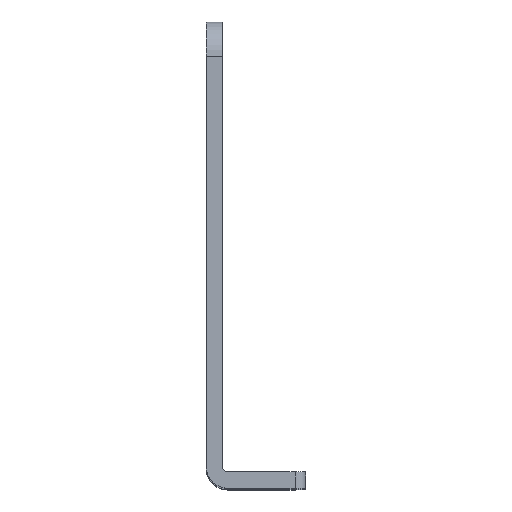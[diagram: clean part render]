
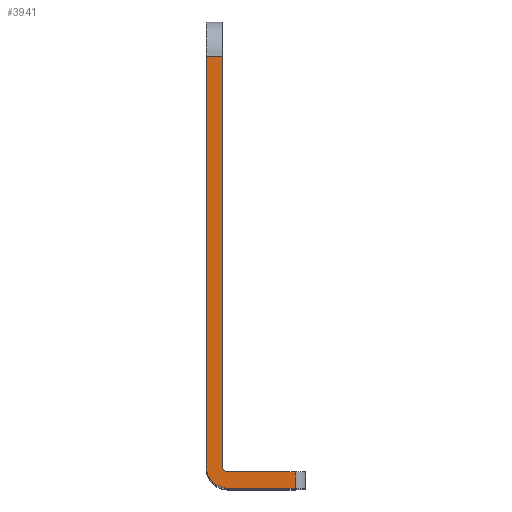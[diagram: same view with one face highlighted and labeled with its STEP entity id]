
A CAD part, top view. The second image highlights one B-rep face of the part: STEP entity #3941.
In plain terms, the highlighted planar face has unit normal (0, 0, 1).
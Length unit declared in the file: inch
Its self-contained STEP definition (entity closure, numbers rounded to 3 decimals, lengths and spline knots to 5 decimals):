
#769 = VERTEX_POINT ( 'NONE', #8805 ) ;
#1228 = ORIENTED_EDGE ( 'NONE', *, *, #3482, .T. ) ;
#1363 = ORIENTED_EDGE ( 'NONE', *, *, #3379, .T. ) ;
#1463 = VERTEX_POINT ( 'NONE', #10074 ) ;
#1464 = VERTEX_POINT ( 'NONE', #9251 ) ;
#1465 = VERTEX_POINT ( 'NONE', #9946 ) ;
#1617 = VERTEX_POINT ( 'NONE', #9825 ) ;
#1628 = VERTEX_POINT ( 'NONE', #9856 ) ;
#1651 = VERTEX_POINT ( 'NONE', #9814 ) ;
#1694 = ORIENTED_EDGE ( 'NONE', *, *, #3481, .T. ) ;
#1753 = VERTEX_POINT ( 'NONE', #2620 ) ;
#2024 = LINE ( 'NONE', #2167, #5277 ) ;
#2110 = DIRECTION ( 'NONE',  ( 0., -1., 0. ) ) ;
#2167 = CARTESIAN_POINT ( 'NONE',  ( -0.85125, -0.78521, 1.57302 ) ) ;
#2620 = CARTESIAN_POINT ( 'NONE',  ( -0.85125, 1.59479, 1.57302 ) ) ;
#2724 = EDGE_CURVE ( 'NONE', #1753, #1651, #2024, .T. ) ;
#2911 = EDGE_CURVE ( 'NONE', #1464, #769, #6558, .T. ) ;
#3379 = EDGE_CURVE ( 'NONE', #1628, #1617, #4251, .T. ) ;
#3413 = EDGE_CURVE ( 'NONE', #1465, #1463, #8355, .T. ) ;
#3480 = EDGE_CURVE ( 'NONE', #769, #1628, #5701, .T. ) ;
#3481 = EDGE_CURVE ( 'NONE', #1463, #1464, #8539, .T. ) ;
#3482 = EDGE_CURVE ( 'NONE', #1651, #1465, #5707, .T. ) ;
#3483 = EDGE_CURVE ( 'NONE', #1617, #1753, #8567, .T. ) ;
#3941 = ADVANCED_FACE ( 'NONE', ( #4619 ), #4620, .F. ) ;
#4251 = LINE ( 'NONE', #4260, #5482 ) ;
#4260 = CARTESIAN_POINT ( 'NONE',  ( -0.76125, 1.78479, 1.57302 ) ) ;
#4285 = DIRECTION ( 'NONE',  ( 0., 1., 0. ) ) ;
#4611 = CARTESIAN_POINT ( 'NONE',  ( -0.30125, -0.78521, 1.57302 ) ) ;
#4619 = FACE_OUTER_BOUND ( 'NONE', #9629, .T. ) ;
#4620 = PLANE ( 'NONE',  #8850 ) ;
#4622 = DIRECTION ( 'NONE',  ( 0., 0., -1. ) ) ;
#4623 = DIRECTION ( 'NONE',  ( -1., 0., 0. ) ) ;
#5277 = VECTOR ( 'NONE', #2110, 39.37008 ) ;
#5482 = VECTOR ( 'NONE', #4285, 39.37008 ) ;
#5571 = VECTOR ( 'NONE', #8327, 39.37008 ) ;
#5701 = CIRCLE ( 'NONE', #5708, 0.03 ) ;
#5706 = VECTOR ( 'NONE', #8606, 39.37008 ) ;
#5707 = CIRCLE ( 'NONE', #5717, 0.12 ) ;
#5708 = AXIS2_PLACEMENT_3D ( 'NONE', #8525, #8594, #8560 ) ;
#5710 = VECTOR ( 'NONE', #8578, 39.37008 ) ;
#5717 = AXIS2_PLACEMENT_3D ( 'NONE', #8591, #8597, #8595 ) ;
#5933 = VECTOR ( 'NONE', #6414, 39.37008 ) ;
#6414 = DIRECTION ( 'NONE',  ( -1., 0., 0. ) ) ;
#6504 = CARTESIAN_POINT ( 'NONE',  ( -0.76125, -0.69521, 1.57302 ) ) ;
#6558 = LINE ( 'NONE', #6504, #5933 ) ;
#8327 = DIRECTION ( 'NONE',  ( 1., 0., 0. ) ) ;
#8335 = CARTESIAN_POINT ( 'NONE',  ( -0.85125, -0.78521, 1.57302 ) ) ;
#8355 = LINE ( 'NONE', #8335, #5571 ) ;
#8525 = CARTESIAN_POINT ( 'NONE',  ( -0.73125, -0.66521, 1.57302 ) ) ;
#8527 = CARTESIAN_POINT ( 'NONE',  ( -0.30125, 1.59479, 1.57302 ) ) ;
#8536 = CARTESIAN_POINT ( 'NONE',  ( -0.36125, -0.78521, 1.57302 ) ) ;
#8539 = LINE ( 'NONE', #8536, #5710 ) ;
#8560 = DIRECTION ( 'NONE',  ( -1., 0., 0. ) ) ;
#8567 = LINE ( 'NONE', #8527, #5706 ) ;
#8578 = DIRECTION ( 'NONE',  ( 0., 1., 0. ) ) ;
#8591 = CARTESIAN_POINT ( 'NONE',  ( -0.73125, -0.66521, 1.57302 ) ) ;
#8594 = DIRECTION ( 'NONE',  ( 0., 0., -1. ) ) ;
#8595 = DIRECTION ( 'NONE',  ( -1., 0., 0. ) ) ;
#8597 = DIRECTION ( 'NONE',  ( 0., 0., 1. ) ) ;
#8606 = DIRECTION ( 'NONE',  ( -1., 0., 0. ) ) ;
#8805 = CARTESIAN_POINT ( 'NONE',  ( -0.73125, -0.69521, 1.57302 ) ) ;
#8850 = AXIS2_PLACEMENT_3D ( 'NONE', #4611, #4622, #4623 ) ;
#8908 = ORIENTED_EDGE ( 'NONE', *, *, #3480, .T. ) ;
#9251 = CARTESIAN_POINT ( 'NONE',  ( -0.36125, -0.69521, 1.57302 ) ) ;
#9387 = ORIENTED_EDGE ( 'NONE', *, *, #3413, .T. ) ;
#9611 = ORIENTED_EDGE ( 'NONE', *, *, #3483, .T. ) ;
#9629 = EDGE_LOOP ( 'NONE', ( #9387, #1694, #9951, #8908, #1363, #9611, #9967, #1228 ) ) ;
#9814 = CARTESIAN_POINT ( 'NONE',  ( -0.85125, -0.66521, 1.57302 ) ) ;
#9825 = CARTESIAN_POINT ( 'NONE',  ( -0.76125, 1.59479, 1.57302 ) ) ;
#9856 = CARTESIAN_POINT ( 'NONE',  ( -0.76125, -0.66521, 1.57302 ) ) ;
#9946 = CARTESIAN_POINT ( 'NONE',  ( -0.73125, -0.78521, 1.57302 ) ) ;
#9951 = ORIENTED_EDGE ( 'NONE', *, *, #2911, .T. ) ;
#9967 = ORIENTED_EDGE ( 'NONE', *, *, #2724, .T. ) ;
#10074 = CARTESIAN_POINT ( 'NONE',  ( -0.36125, -0.78521, 1.57302 ) ) ;
